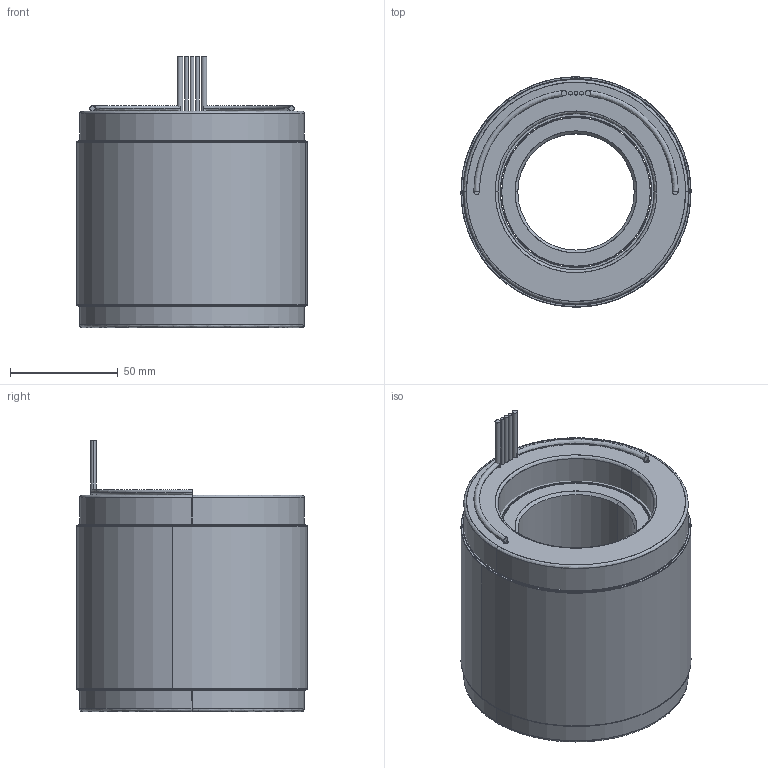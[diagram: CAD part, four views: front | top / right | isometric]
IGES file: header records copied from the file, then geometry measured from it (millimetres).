
Start section: SolidWorks IGES file using analytic representation for surfaces
Global section: file name: \\fs01.aveox.local\user documents\eng\My Documents\STANDARD STATOR ROTOR SETS\NEW DIRECT DRIVE MOTOR\4.2 OD 18S16P\6100329-04.IGS; native system: SolidWorks 2016; preprocessor: SolidWorks 2016; author: eng; date: 191023.143348; units: millimetre
Bounding box: 106.68 x 106.68 x 125.73 mm (x, y, z)
Surface area: 190323.8 mm2 (no closed solid volume)
Topology: 0 solids, 0 shells, 94 faces, 2628 edges, 2628 vertices
Faces by surface type: revolution 52, bspline 42
